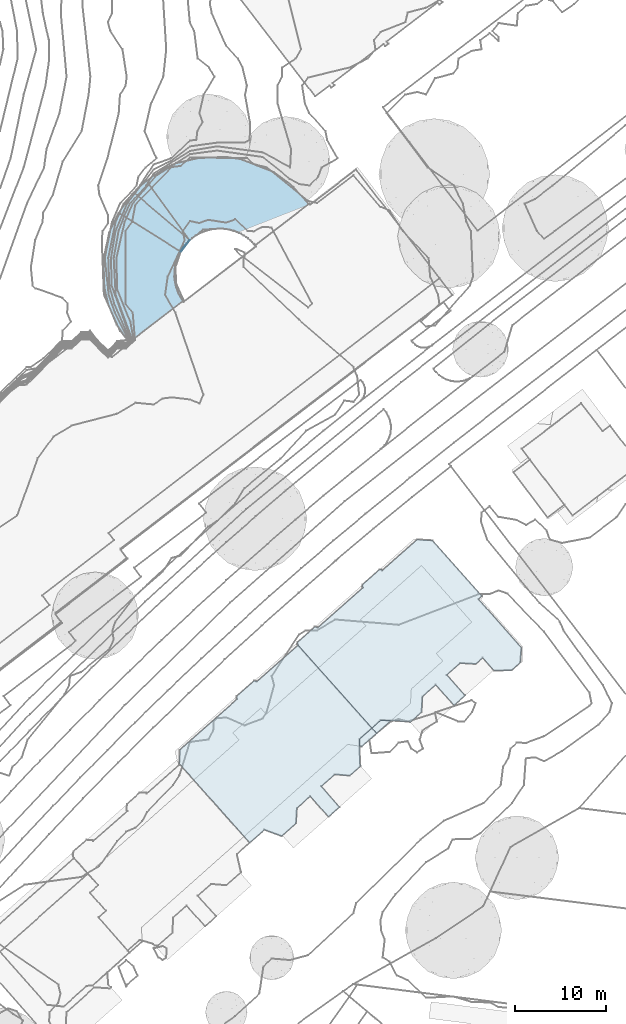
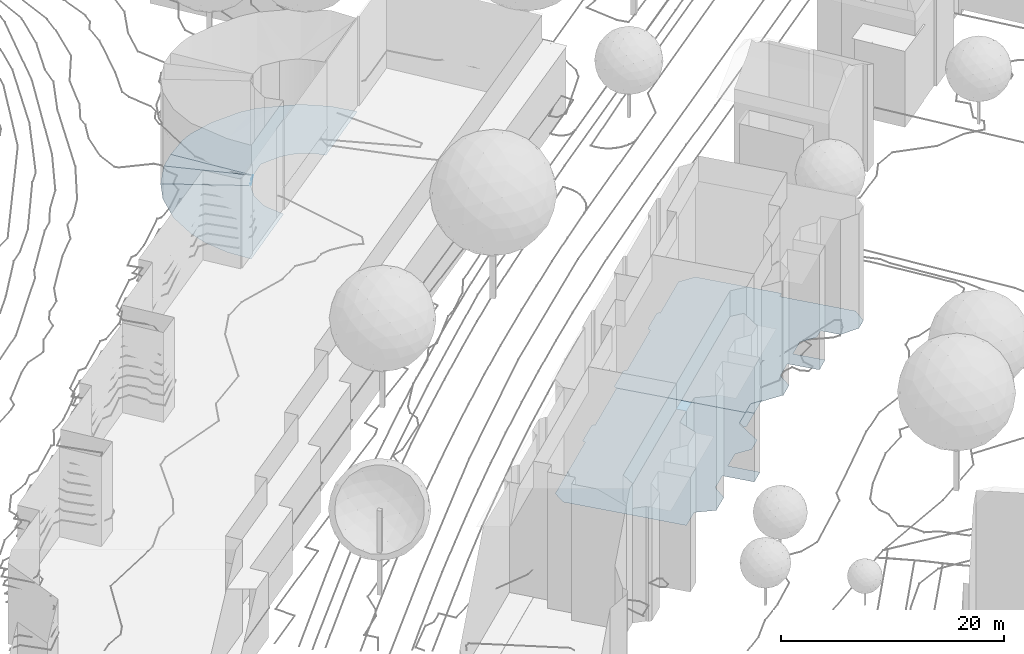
# Not in any storey, part 7 of 494: 7 footings.
"""IFC2X3 model written with IfcOpenShell, lengths in metres."""

from ifc_helpers import new_model, si_unit, frame, origin_with_axes, place, context, subcontext, project, faceted_brep, element, save


model = new_model("IFC2X3")

# Units and contexts
model_context = context("Model", 3, precision=1e-05, world=origin_with_axes())
body_context = subcontext(model_context, "Body", "Model", "MODEL_VIEW")
ifc_project = project(units=[si_unit("AREAUNIT", "SQUARE_METRE"), si_unit("LENGTHUNIT", "METRE")], contexts=[model_context])

# Footings
footing_1_placement = place(None, frame((352.5117320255, 77.5340160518, 499.5586), z_axis=(0.0, 0.0, 1.0), x_axis=(1.0, 0.0, 0.0)))
element("IfcFooting", 1, at=footing_1_placement, Name="Floor 0", PredefinedType="STRIP_FOOTING", context=body_context, shape_type="Brep", body=[
    faceted_brep([(21.7280000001, 3.3291000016, 0.095), (19.8289999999, 2.6865000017, 0.095), (21.2080000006, 3.9121000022, 0.095), (20.1009999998, 1.884800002, 0.095), (19.8509999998, 1.9219000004, 0.095), (8.4470000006, 9.0976000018, 0.0), (8.5260000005, 9.0078000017, 0.0), (8.2180000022, 9.1084000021, 0.0), (6.3859999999, 7.1103000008, 0.0), (21.2080000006, 3.9121000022, 0.0), (19.8289999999, 2.6865000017, 0.0), (13.0700000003, 13.0361000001, 0.0), (17.1070000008, -1.2168000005, 0.0), (15.6400000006, -2.5165999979, 0.0), (6.3170000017, 7.4219000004, 0.0), (6.3060000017, 7.2012000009, 0.0), (9.3599999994, -7.2949000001, 0.0), (7.7479999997, -8.7256000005, 0.0), (0.0, 0.0, 0.0), (12.9550000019, -4.8944999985, 0.0), (0.0549999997, 1.4990000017, 0.0), (14.4210000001, -3.5956999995, 0.0), (19.9140000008, -0.2256000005, 0.0), (18.7750000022, -1.3368999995, 0.0), (19.9660000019, -0.2831999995, 0.0), (17.6390000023, -4.7841999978, 0.0), (12.8520000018, -6.5830000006, 0.0), (11.2569999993, -7.9970999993, 0.0), (16.4270000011, -5.8603999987, 0.0)], [[[0, 1, 2]], [[3, 4, 1]], [[1, 0, 3]], [[5, 6, 7]], [[7, 6, 8]], [[9, 10, 11]], [[12, 6, 10]], [[10, 6, 11]], [[8, 6, 13]], [[14, 8, 15]], [[16, 17, 18]], [[19, 18, 8]], [[18, 20, 8]], [[7, 8, 14]], [[8, 13, 21]], [[12, 10, 22]], [[12, 22, 23]], [[23, 22, 24]], [[25, 21, 13]], [[19, 16, 18]], [[21, 19, 8]], [[19, 26, 16]], [[27, 16, 26]], [[25, 28, 21]], [[6, 12, 13]]]),
])
footing_2_placement = place(None, frame((365.5087320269, 90.6648160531, 499.5586), z_axis=(0.0, 0.0, 1.0), x_axis=(1.0, 0.0, 0.0)))
element("IfcFooting", 2, at=footing_2_placement, Name="Floor 0", PredefinedType="STRIP_FOOTING", context=body_context, shape_type="Brep", body=[
    faceted_brep([(8.7309999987, -9.8016999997, 0.095), (9.1849999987, -8.3553999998, 0.095), (10.2949999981, -8.4140000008, 0.095), (8.2109999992, -9.2186999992, 0.095), (12.3619999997, -8.5234000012, 0.0), (13.6900000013, -7.4580000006, 0.0), (12.4189999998, -8.5868999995, 0.0), (13.7690000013, -5.7685000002, 0.0), (7.2329999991, 6.25, 0.0), (15.2329999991, -4.4648000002, 0.0), (9.1849999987, -8.3553999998, 0.0), (16.4600000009, -3.3729999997, 0.0), (17.2540000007, -6.7197000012, 0.0), (9.3579999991, 8.1338, 0.0), (17.9169999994, -2.0751000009, 0.0), (18.4820000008, -5.6297999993, 0.0), (21.6640000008, -2.8973999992, 0.0), (24.6719999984, -0.3662, 0.0), (23.5819999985, -2.8584000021, 0.0), (24.5549999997, -1.9891999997, 0.0), (20.4100000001, -1.4862999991, 0.0), (19.625, -2.1845000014, 0.0), (19.9419999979, 4.9873999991, 0.0), (2.2340000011, 1.8203999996, 0.0), (0.0769999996, -0.0908000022, 0.0), (0.0219999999, 0.2402999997, 0.0), (1.9189999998, 1.9239000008, 0.0), (2.1539999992, 1.9101999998, 0.0), (0.0, 0.0, 0.0), (13.1970000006, 11.5372000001, 0.0), (14.8920000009, 11.4208999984, 0.0), (20.3209999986, 5.3242999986, 0.0), (7.1680000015, 6.5830999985, 0.0), (9.0339999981, 8.2392999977, 0.0), (9.2780000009, 8.2236999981, 0.0), (7.1530000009, 6.3398999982, 0.0), (8.2120000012, -9.2177000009, 0.0)], [[[0, 1, 2]], [[1, 0, 3]], [[4, 5, 6]], [[7, 5, 4]], [[7, 8, 9]], [[7, 4, 10]], [[11, 9, 8]], [[12, 9, 11]], [[13, 14, 11]], [[11, 15, 12]], [[16, 17, 18]], [[19, 18, 17]], [[20, 17, 16]], [[21, 14, 20]], [[22, 17, 20]], [[20, 14, 22]], [[23, 7, 10]], [[23, 10, 24]], [[7, 23, 8]], [[24, 25, 23]], [[11, 8, 13]], [[23, 25, 26]], [[23, 26, 27]], [[24, 28, 25]], [[13, 29, 30]], [[30, 22, 13]], [[31, 22, 30]], [[13, 8, 32]], [[33, 34, 13]], [[13, 32, 33]], [[14, 13, 22]], [[32, 8, 35]], [[10, 36, 24]]]),
])
footing_3_placement = place(None, frame((287.111732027, 46.2742160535, 500.3625), z_axis=(0.0, 0.0, 1.0), x_axis=(1.0, 0.0, 0.0)))
element("IfcFooting", 3, at=footing_3_placement, Name="Floor 5", PredefinedType="STRIP_FOOTING", context=body_context, shape_type="Brep", body=[
    faceted_brep([(61.7819999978, 95.4219000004, -0.3589), (66.5350000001, 88.8886999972, -0.3589), (60.3469999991, 94.1474999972, -0.3589), (66.5399999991, 88.8925999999, -0.3589)], [[[0, 1, 2]], [[1, 0, 3]]]),
])
footing_4_placement = place(None, frame((287.111732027, 46.2742160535, 500.3625), z_axis=(0.0, 0.0, 1.0), x_axis=(1.0, 0.0, 0.0)))
element("IfcFooting", 4, at=footing_4_placement, Name="Floor 6", PredefinedType="STRIP_FOOTING", context=body_context, shape_type="Brep", body=[
    faceted_brep([(65.5219999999, 87.6425999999, -0.3589), (65.6440000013, 87.8515999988, -0.3589), (65.557, 87.5995999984, -0.3589), (65.8969999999, 88.2099999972, -0.3589), (66.180999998, 88.5449000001, -0.3589), (66.557, 88.8691999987, -0.3589), (66.4919999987, 88.8534999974, -0.3589), (66.5359999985, 88.8896999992, -0.3589), (66.5390000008, 88.8915999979, -0.3589)], [[[0, 1, 2]], [[2, 1, 3]], [[3, 4, 2]], [[2, 4, 5]], [[6, 7, 5]], [[5, 4, 6]], [[8, 5, 7]]]),
])
footing_5_placement = place(None, frame((287.111732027, 46.2742160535, 500.3625), z_axis=(0.0, 0.0, 1.0), x_axis=(1.0, 0.0, 0.0)))
element("IfcFooting", 5, at=footing_5_placement, Name="Floor 7", PredefinedType="STRIP_FOOTING", context=body_context, shape_type="Brep", body=[
    faceted_brep([(65.6440000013, 87.8515999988, -0.3589), (58.6970000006, 91.8827999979, -0.3589), (65.8969999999, 88.2099999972, -0.3589), (66.180999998, 88.5449000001, -0.3589), (60.3469999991, 94.1474999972, -0.3589), (66.4919999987, 88.8534999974, -0.3589), (66.5350000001, 88.8886999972, -0.3589), (65.5130000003, 87.6270000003, -0.3589), (65.5219999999, 87.6425999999, -0.3589), (65.557, 87.5995999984, -0.3589)], [[[0, 1, 2]], [[3, 4, 5]], [[5, 4, 6]], [[4, 3, 2]], [[7, 8, 9]], [[4, 2, 1]], [[8, 7, 1]], [[8, 1, 0]]]),
])
footing_6_placement = place(None, frame((287.111732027, 46.2742160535, 500.3625), z_axis=(0.0, 0.0, 1.0), x_axis=(1.0, 0.0, 0.0)))
element("IfcFooting", 6, at=footing_6_placement, Name="Floor 8", PredefinedType="STRIP_FOOTING", context=body_context, shape_type="Brep", body=[
    faceted_brep([(73.7740000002, 88.3290999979, -0.3589), (73.5579999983, 88.5312999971, -0.3589), (79.6539999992, 92.8544999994, -0.3589), (73.25, 88.8398999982, -0.3589), (72.7749999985, 89.2109999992, -0.3589), (72.5549999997, 89.3642999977, -0.3589), (72.9890000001, 89.1044999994, -0.3589), (72.1779999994, 89.5821000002, -0.3589), (75.7809999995, 96.3847999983, -0.3589), (78.0089999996, 94.7294999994, -0.3589), (72.0909999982, 97.8105999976, -0.3589), (71.373999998, 89.9159999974, -0.3589), (71.7829999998, 89.7665999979, -0.3589), (70.5249999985, 90.1064999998, -0.3589), (70.9539999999, 90.0293000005, -0.3589), (70.0219999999, 90.1699000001, -0.3589), (69.2219999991, 90.1132999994, -0.3589), (70.4869999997, 98.0429999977, -0.3589), (69.6559999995, 90.1464999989, -0.3589), (68.0170000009, 90.0361999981, -0.3589), (67.4470000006, 97.9140999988, -0.3589), (66.5390000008, 88.8915999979, -0.3589), (66.5399999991, 88.8925999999, -0.3589), (66.557, 88.8691999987, -0.3589), (67.1900000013, 89.3798999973, -0.3589), (63.8220000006, 96.8057000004, -0.3589), (61.7819999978, 95.4219000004, -0.3589), (65.0579999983, 97.3466999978, -0.3589), (64.4250000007, 97.0888999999, -0.3589), (64.6579999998, 97.1983000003, -0.3589), (70.0929999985, 90.1484999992, -0.3589)], [[[0, 1, 2]], [[2, 1, 3]], [[4, 5, 6]], [[7, 8, 5]], [[5, 9, 6]], [[3, 6, 9]], [[5, 8, 9]], [[10, 8, 11]], [[2, 3, 9]], [[11, 8, 12]], [[13, 10, 14]], [[14, 10, 11]], [[8, 7, 12]], [[13, 15, 10]], [[16, 17, 18]], [[19, 20, 16]], [[21, 22, 23]], [[24, 25, 19]], [[24, 23, 22]], [[24, 22, 26]], [[17, 16, 20]], [[27, 20, 19]], [[15, 18, 17]], [[10, 15, 17]], [[28, 29, 19]], [[19, 29, 27]], [[28, 19, 25]], [[26, 25, 24]], [[13, 30, 15]]]),
])
footing_7_placement = place(None, frame((287.111732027, 46.2742160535, 500.3625), z_axis=(0.0, 0.0, 1.0), x_axis=(1.0, 0.0, 0.0)))
element("IfcFooting", 7, at=footing_7_placement, Name="Floor 9", PredefinedType="STRIP_FOOTING", context=body_context, shape_type="Brep", body=[
    faceted_brep([(57.0460000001, 86.6904999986, -0.3589), (65.805999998, 82.1983000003, -0.3589), (57.1569999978, 83.7168000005, -0.3589), (65.0410000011, 84.2001999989, -0.3589), (57.682, 89.7196999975, -0.3589), (58.5159999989, 79.6083999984, -0.3589), (57.5599999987, 81.8847999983, -0.3589), (58.6970000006, 91.8827999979, -0.3589), (65.5130000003, 87.6270000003, -0.3589), (65.557, 87.5995999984, -0.3589), (65.0009999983, 85.9745999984, -0.3589), (59.8660000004, 77.623999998, -0.3589), (65.8959999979, 82.2675999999, -0.3589)], [[[0, 1, 2]], [[3, 0, 4]], [[1, 5, 6]], [[1, 6, 2]], [[7, 8, 4]], [[9, 10, 8]], [[4, 10, 3]], [[1, 11, 5]], [[3, 1, 0]], [[1, 3, 12]], [[4, 8, 10]]]),
])

save(model, "model.ifc")
